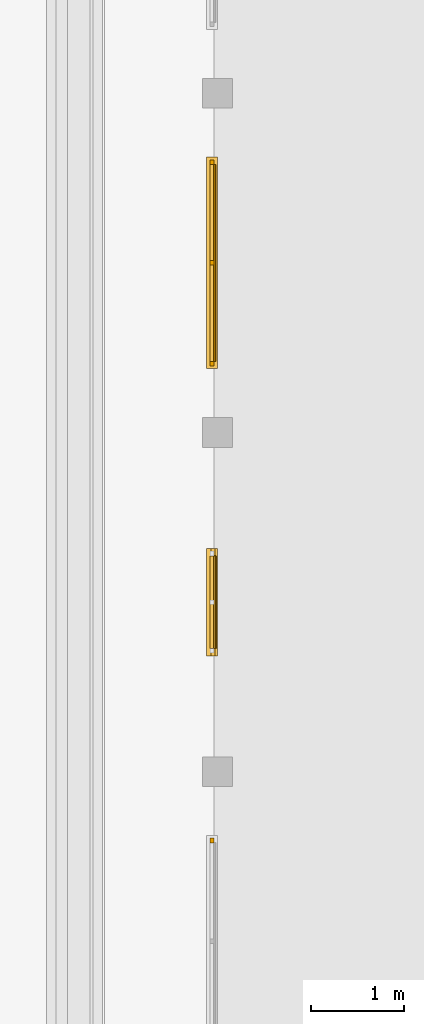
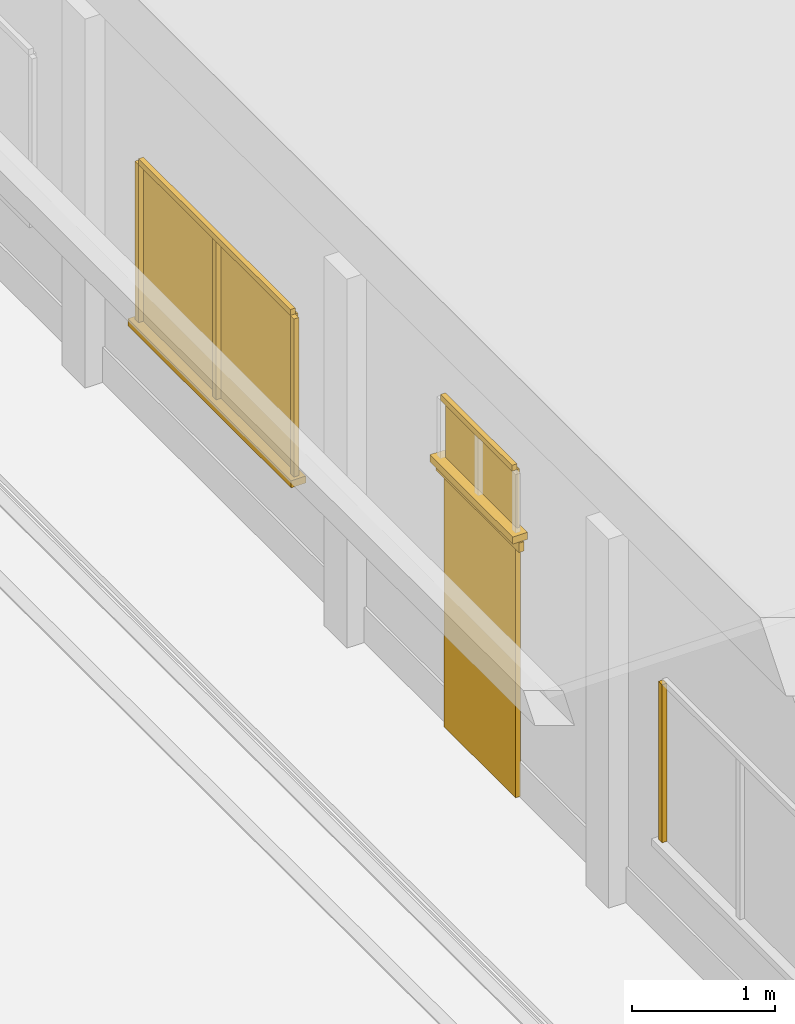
# One storey, part 58 of 177: 10 windows, 2 doors.
"""IFC4 building model written with IfcOpenShell, lengths in metres."""

from ifc_helpers import new_model, si_unit, origin, origin_with_axes, place, context, subcontext, project, spatial, triangles, element, save


model = new_model("IFC4")

# Units and contexts
model_context = context("Model", 3, precision=1e-05, world=origin_with_axes())
body_context = subcontext(model_context, "Body", "Model", "MODEL_VIEW")
ifc_project = project(units=[si_unit("LENGTHUNIT", "METRE"), si_unit("AREAUNIT", "SQUARE_METRE"), si_unit("VOLUMEUNIT", "CUBIC_METRE"), si_unit("PLANEANGLEUNIT", "RADIAN")], contexts=[model_context])

# Site, building, storey
site_placement = place(None, origin_with_axes())
site = spatial("IfcSite", under=ifc_project, at=site_placement, Name="Predio Los Mangos - Morales, San Martín", CompositionType="ELEMENT")
building_placement = place(site_placement, origin())
building = spatial("IfcBuilding", under=site, at=building_placement, Name="Hogar de Refugio Temporal", CompositionType="ELEMENT")
storey_placement = place(building_placement, origin())
storey = spatial("IfcBuildingStorey", under=building, at=storey_placement, Name="NIVEL 1 (NPT +0.00)", CompositionType="ELEMENT", Elevation=0.0)

# Window
window_1_placement = place(storey_placement, origin())
element("IfcWindow", 1, at=window_1_placement, inside=storey, Name="E-05_v3_m", ObjectType="Ventana", PredefinedType="WINDOW", context=body_context, shape_type="Tessellation", body=[
    triangles([(45.22, 71.7809, 1.05), (45.26, 71.7809, 1.05), (45.26, 71.8309, 1.05), (45.22, 71.8309, 1.05), (45.22, 71.7809, 2.4), (45.26, 71.7809, 2.4), (45.26, 71.8309, 2.4), (45.22, 71.8309, 2.4)], [[1, 4, 3], [1, 3, 2], [5, 6, 7], [5, 7, 8], [1, 2, 6], [1, 6, 5], [2, 3, 7], [2, 7, 6], [3, 4, 8], [3, 8, 7], [4, 1, 5], [4, 5, 8]]),
])

# Doors
door_1_placement = place(storey_placement, origin())
element("IfcDoor", 2, at=door_1_placement, inside=storey, Name="E-05_p4", ObjectType="Puerta", PredefinedType="DOOR", context=body_context, shape_type="Tessellation", body=[
    triangles([(45.25, 73.8812, 0.15), (45.29, 73.8812, 0.15), (45.29, 74.8812, 0.15), (45.25, 74.8812, 0.15), (45.25, 73.8812, 2.3), (45.29, 73.8812, 2.3), (45.29, 74.8812, 2.3), (45.25, 74.8812, 2.3)], [[1, 4, 3], [1, 3, 2], [5, 6, 7], [5, 7, 8], [1, 2, 6], [1, 6, 5], [2, 3, 7], [2, 7, 6], [3, 4, 8], [3, 8, 7], [4, 1, 5], [4, 5, 8]]),
])
door_2_placement = place(storey_placement, origin())
element("IfcDoor", 3, at=door_2_placement, inside=storey, Name="E-05_p4_marco", ObjectType="Puerta", PredefinedType="DOOR", context=body_context, shape_type="Tessellation", body=[
    triangles([(45.23, 73.8012, 2.3), (45.27, 73.8012, 2.3), (45.27, 74.9613, 2.3), (45.23, 74.9613, 2.3), (45.23, 73.8012, 2.38), (45.27, 73.8012, 2.38), (45.27, 74.9613, 2.38), (45.23, 74.9613, 2.38)], [[1, 4, 3], [1, 3, 2], [5, 6, 7], [5, 7, 8], [1, 2, 6], [1, 6, 5], [2, 3, 7], [2, 7, 6], [3, 4, 8], [3, 8, 7], [4, 1, 5], [4, 5, 8]]),
])

# Windows
window_2_placement = place(storey_placement, origin())
element("IfcWindow", 4, at=window_2_placement, inside=storey, Name="E-05_vt4_vid", ObjectType="Ventana", PredefinedType="WINDOW", context=body_context, shape_type="Tessellation", body=[
    triangles([(45.26, 73.8812, 2.45), (45.28, 73.8812, 2.45), (45.28, 74.8812, 2.45), (45.26, 74.8812, 2.45), (45.26, 73.8812, 2.95), (45.28, 73.8812, 2.95), (45.28, 74.8812, 2.95), (45.26, 74.8812, 2.95)], [[1, 4, 3], [1, 3, 2], [5, 6, 7], [5, 7, 8], [1, 2, 6], [1, 6, 5], [2, 3, 7], [2, 7, 6], [3, 4, 8], [3, 8, 7], [4, 1, 5], [4, 5, 8]]),
])
window_3_placement = place(storey_placement, origin())
element("IfcWindow", 5, at=window_3_placement, inside=storey, Name="E-05_vt4_m", ObjectType="Ventana", PredefinedType="WINDOW", context=body_context, shape_type="Tessellation", body=[
    triangles([(45.22, 73.8812, 2.95), (45.26, 73.8812, 2.95), (45.26, 74.8812, 2.95), (45.22, 74.8812, 2.95), (45.22, 73.8812, 3.0), (45.26, 73.8812, 3.0), (45.26, 74.8812, 3.0), (45.22, 74.8812, 3.0)], [[1, 4, 3], [1, 3, 2], [5, 6, 7], [5, 7, 8], [1, 2, 6], [1, 6, 5], [2, 3, 7], [2, 7, 6], [3, 4, 8], [3, 8, 7], [4, 1, 5], [4, 5, 8]]),
])
window_4_placement = place(storey_placement, origin())
element("IfcWindow", 6, at=window_4_placement, inside=storey, Name="E-05_vt4_alf", ObjectType="Ventana", PredefinedType="WINDOW", context=body_context, shape_type="Tessellation", body=[
    triangles([(45.3, 73.8012, 2.39), (45.18, 73.8012, 2.39), (45.18, 74.9613, 2.39), (45.3, 74.9613, 2.39), (45.3, 73.8012, 2.45), (45.18, 73.8012, 2.45), (45.18, 74.9613, 2.45), (45.3, 74.9613, 2.45)], [[1, 4, 3], [1, 3, 2], [5, 6, 7], [5, 7, 8], [1, 2, 6], [1, 6, 5], [2, 3, 7], [2, 7, 6], [3, 4, 8], [3, 8, 7], [4, 1, 5], [4, 5, 8]]),
])
window_5_placement = place(storey_placement, origin())
element("IfcWindow", 7, at=window_5_placement, inside=storey, Name="E-05_v5_vid", ObjectType="Ventana", PredefinedType="WINDOW", context=body_context, shape_type="Tessellation", body=[
    triangles([(45.26, 76.9816, 1.05), (45.28, 76.9816, 1.05), (45.28, 79.1059, 1.05), (45.26, 79.1059, 1.05), (45.26, 76.9816, 2.4), (45.28, 76.9816, 2.4), (45.28, 79.1059, 2.4), (45.26, 79.1059, 2.4)], [[1, 4, 3], [1, 3, 2], [5, 6, 7], [5, 7, 8], [1, 2, 6], [1, 6, 5], [2, 3, 7], [2, 7, 6], [3, 4, 8], [3, 8, 7], [4, 1, 5], [4, 5, 8]]),
])
window_6_placement = place(storey_placement, origin())
element("IfcWindow", 8, at=window_6_placement, inside=storey, Name="E-05_v5_m", ObjectType="Ventana", PredefinedType="WINDOW", context=body_context, shape_type="Tessellation", body=[
    triangles([(45.22, 76.9316, 1.05), (45.26, 76.9316, 1.05), (45.26, 76.9816, 1.05), (45.22, 76.9816, 1.05), (45.22, 76.9316, 2.4), (45.26, 76.9316, 2.4), (45.26, 76.9816, 2.4), (45.22, 76.9816, 2.4)], [[1, 4, 3], [1, 3, 2], [5, 6, 7], [5, 7, 8], [1, 2, 6], [1, 6, 5], [2, 3, 7], [2, 7, 6], [3, 4, 8], [3, 8, 7], [4, 1, 5], [4, 5, 8]]),
])
window_7_placement = place(storey_placement, origin())
element("IfcWindow", 9, at=window_7_placement, inside=storey, Name="E-05_v5_m", ObjectType="Ventana", PredefinedType="WINDOW", context=body_context, shape_type="Tessellation", body=[
    triangles([(45.22, 79.1059, 1.05), (45.26, 79.1059, 1.05), (45.26, 79.1559, 1.05), (45.22, 79.1559, 1.05), (45.22, 79.1059, 2.4), (45.26, 79.1059, 2.4), (45.26, 79.1559, 2.4), (45.22, 79.1559, 2.4)], [[1, 4, 3], [1, 3, 2], [5, 6, 7], [5, 7, 8], [1, 2, 6], [1, 6, 5], [2, 3, 7], [2, 7, 6], [3, 4, 8], [3, 8, 7], [4, 1, 5], [4, 5, 8]]),
])
window_8_placement = place(storey_placement, origin())
element("IfcWindow", 10, at=window_8_placement, inside=storey, Name="E-05_v5_m", ObjectType="Ventana", PredefinedType="WINDOW", context=body_context, shape_type="Tessellation", body=[
    triangles([(45.22, 76.9816, 2.4), (45.26, 76.9816, 2.4), (45.26, 79.1059, 2.4), (45.22, 79.1059, 2.4), (45.22, 76.9816, 2.45), (45.26, 76.9816, 2.45), (45.26, 79.1059, 2.45), (45.22, 79.1059, 2.45)], [[1, 4, 3], [1, 3, 2], [5, 6, 7], [5, 7, 8], [1, 2, 6], [1, 6, 5], [2, 3, 7], [2, 7, 6], [3, 4, 8], [3, 8, 7], [4, 1, 5], [4, 5, 8]]),
])
window_9_placement = place(storey_placement, origin())
element("IfcWindow", 11, at=window_9_placement, inside=storey, Name="E-05_v5_m", ObjectType="Ventana", PredefinedType="WINDOW", context=body_context, shape_type="Tessellation", body=[
    triangles([(45.22, 78.0188, 1.05), (45.26, 78.0188, 1.05), (45.26, 78.0687, 1.05), (45.22, 78.0687, 1.05), (45.22, 78.0188, 2.4), (45.26, 78.0188, 2.4), (45.26, 78.0687, 2.4), (45.22, 78.0687, 2.4)], [[1, 4, 3], [1, 3, 2], [5, 6, 7], [5, 7, 8], [1, 2, 6], [1, 6, 5], [2, 3, 7], [2, 7, 6], [3, 4, 8], [3, 8, 7], [4, 1, 5], [4, 5, 8]]),
])
window_10_placement = place(storey_placement, origin())
element("IfcWindow", 12, at=window_10_placement, inside=storey, Name="E-05_v5_alf", ObjectType="Ventana", PredefinedType="WINDOW", context=body_context, shape_type="Tessellation", body=[
    triangles([(45.3, 76.9016, 0.99), (45.18, 76.9016, 0.99), (45.18, 79.1859, 0.99), (45.3, 79.1859, 0.99), (45.3, 76.9016, 1.05), (45.18, 76.9016, 1.05), (45.18, 79.1859, 1.05), (45.3, 79.1859, 1.05)], [[1, 4, 3], [1, 3, 2], [5, 6, 7], [5, 7, 8], [1, 2, 6], [1, 6, 5], [2, 3, 7], [2, 7, 6], [3, 4, 8], [3, 8, 7], [4, 1, 5], [4, 5, 8]]),
])

save(model, "model.ifc")
